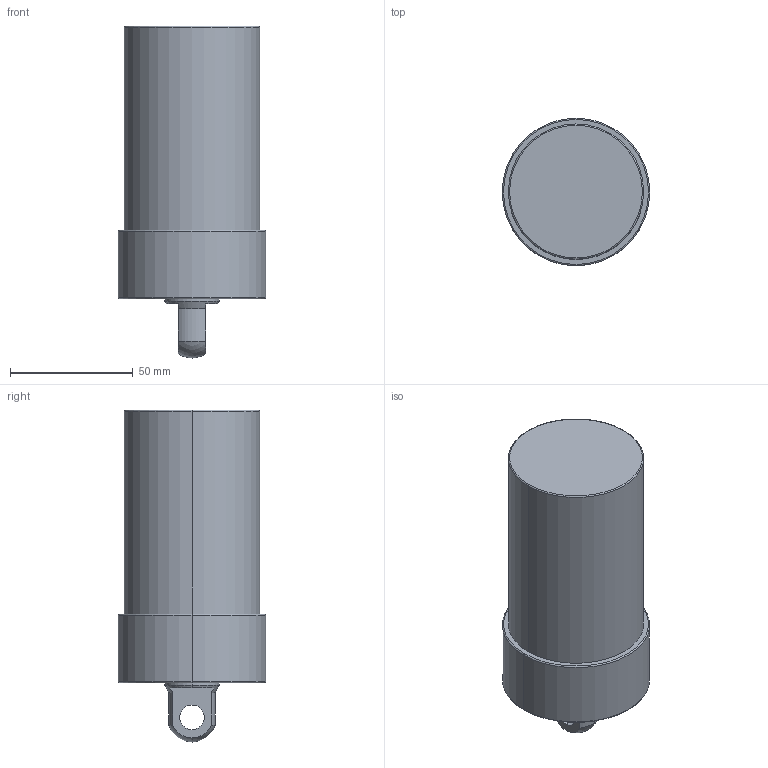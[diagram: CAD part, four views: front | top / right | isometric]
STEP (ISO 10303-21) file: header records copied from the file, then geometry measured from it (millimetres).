
FILE_DESCRIPTION (( 'STEP AP203' ), '1' );
FILE_NAME ('CLLU055-CP-070.STEP', '2017-05-12T10:51:02', ( '' ), ( '' ), 'SwSTEP 2.0', 'SolidWorks 2015', '' );
FILE_SCHEMA (( 'CONFIG_CONTROL_DESIGN' ));
Length unit declared in the file: millimetre
Products named in the file (1): CLLU055-CP-070
Bounding box: 60 x 60 x 135 mm (x, y, z)
Volume: 278591.2 mm3; surface area: 27595.1 mm2
Topology: 1 solids, 1 shells, 57 faces, 130 edges, 75 vertices
Faces by surface type: cylinder 22, cone 18, plane 9, torus 6, sphere 2
Entity records: 1643 total; most frequent: DIRECTION 308, CARTESIAN_POINT 267, ORIENTED_EDGE 244, AXIS2_PLACEMENT_3D 132, EDGE_CURVE 122, VERTEX_POINT 75, CIRCLE 74, EDGE_LOOP 67
